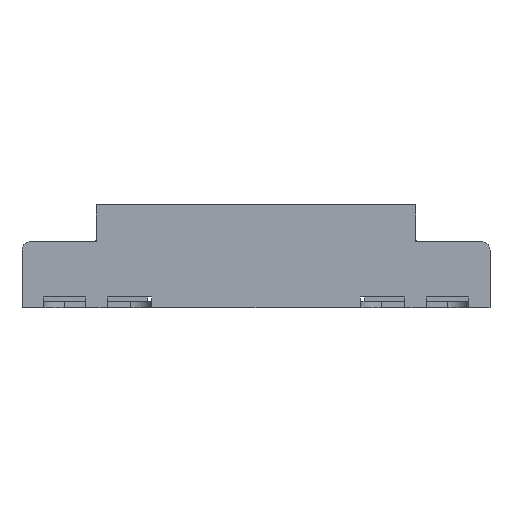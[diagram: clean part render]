
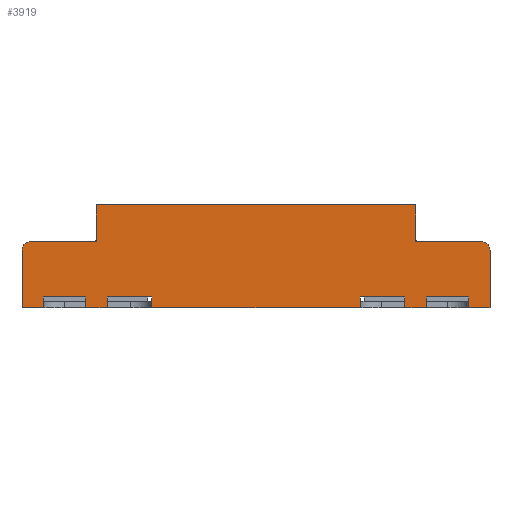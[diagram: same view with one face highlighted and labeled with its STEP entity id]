
A CAD part, front view. The second image highlights one B-rep face of the part: STEP entity #3919.
In plain terms, the highlighted planar face has unit normal (0, -1, 0).
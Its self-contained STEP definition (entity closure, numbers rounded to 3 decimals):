
#1104=CARTESIAN_POINT('Vertex',(10.6,-10.75,2.6)) ;
#1109=CARTESIAN_POINT('Axis2P3D Location',(10.6,-10.75,2.2)) ;
#1113=CARTESIAN_POINT('Vertex',(11.,-10.75,2.2)) ;
#1933=CARTESIAN_POINT('Vertex',(-7.5,-10.75,4.2)) ;
#1938=CARTESIAN_POINT('Line Origine',(-7.5,-10.75,4.275)) ;
#1942=CARTESIAN_POINT('Vertex',(-7.5,-10.75,4.35)) ;
#1964=CARTESIAN_POINT('Line Origine',(7.5,-10.75,-0.5)) ;
#1968=CARTESIAN_POINT('Vertex',(7.,-10.75,-0.5)) ;
#1970=CARTESIAN_POINT('Vertex',(8.,-10.75,-0.5)) ;
#2004=CARTESIAN_POINT('Line Origine',(7.,-10.75,-0.25)) ;
#2008=CARTESIAN_POINT('Vertex',(7.,-10.75,0.)) ;
#2043=CARTESIAN_POINT('Vertex',(-7.,-10.75,-0.5)) ;
#2046=CARTESIAN_POINT('Line Origine',(-7.5,-10.75,-0.5)) ;
#2050=CARTESIAN_POINT('Vertex',(-8.,-10.75,-0.5)) ;
#2070=CARTESIAN_POINT('Line Origine',(-8.,-10.75,-0.25)) ;
#2074=CARTESIAN_POINT('Vertex',(-8.,-10.75,0.)) ;
#2393=CARTESIAN_POINT('Vertex',(7.5,-10.75,4.2)) ;
#2451=CARTESIAN_POINT('Vertex',(-7.,-10.75,0.)) ;
#2454=CARTESIAN_POINT('Line Origine',(-7.,-10.75,-0.25)) ;
#2470=CARTESIAN_POINT('Vertex',(8.,-10.75,0.)) ;
#2473=CARTESIAN_POINT('Line Origine',(8.,-10.75,-0.25)) ;
#2489=CARTESIAN_POINT('Vertex',(7.5,-10.75,4.35)) ;
#2492=CARTESIAN_POINT('Line Origine',(7.5,-10.75,4.275)) ;
#2509=CARTESIAN_POINT('Line Origine',(0.,-10.75,4.35)) ;
#3139=CARTESIAN_POINT('Vertex',(4.9,-10.75,0.)) ;
#3142=CARTESIAN_POINT('Line Origine',(4.9,-10.75,-0.25)) ;
#3146=CARTESIAN_POINT('Vertex',(4.9,-10.75,-0.5)) ;
#3204=CARTESIAN_POINT('Line Origine',(7.5,-10.75,3.475)) ;
#3208=CARTESIAN_POINT('Vertex',(7.5,-10.75,3.8)) ;
#3211=CARTESIAN_POINT('Line Origine',(7.5,-10.75,3.475)) ;
#3215=CARTESIAN_POINT('Vertex',(7.5,-10.75,2.6)) ;
#3272=CARTESIAN_POINT('Vertex',(-7.5,-10.75,2.6)) ;
#3275=CARTESIAN_POINT('Line Origine',(-7.5,-10.75,3.475)) ;
#3279=CARTESIAN_POINT('Vertex',(-7.5,-10.75,3.8)) ;
#3282=CARTESIAN_POINT('Line Origine',(-7.5,-10.75,3.475)) ;
#3305=CARTESIAN_POINT('Vertex',(-11.,-10.75,2.2)) ;
#3310=CARTESIAN_POINT('Axis2P3D Location',(-10.6,-10.75,2.2)) ;
#3314=CARTESIAN_POINT('Vertex',(-10.6,-10.75,2.6)) ;
#3545=CARTESIAN_POINT('Line Origine',(-9.05,-10.75,2.6)) ;
#3550=CARTESIAN_POINT('Line Origine',(9.05,-10.75,2.6)) ;
#3694=CARTESIAN_POINT('Vertex',(10.,-10.75,0.)) ;
#3697=CARTESIAN_POINT('Line Origine',(9.,-10.75,0.)) ;
#3702=CARTESIAN_POINT('Line Origine',(5.95,-10.75,0.)) ;
#3783=CARTESIAN_POINT('Line Origine',(11.,-10.75,0.85)) ;
#3787=CARTESIAN_POINT('Vertex',(11.,-10.75,-0.5)) ;
#3825=CARTESIAN_POINT('Axis2P3D Location',(11.,-10.75,0.)) ;
#3830=CARTESIAN_POINT('Line Origine',(-11.,-10.75,0.85)) ;
#3834=CARTESIAN_POINT('Vertex',(-11.,-10.75,-0.5)) ;
#3837=CARTESIAN_POINT('Line Origine',(-10.5,-10.75,-0.5)) ;
#3841=CARTESIAN_POINT('Vertex',(-10.,-10.75,-0.5)) ;
#3844=CARTESIAN_POINT('Line Origine',(-10.,-10.75,-0.25)) ;
#3848=CARTESIAN_POINT('Vertex',(-10.,-10.75,0.)) ;
#3851=CARTESIAN_POINT('Line Origine',(-9.,-10.75,0.)) ;
#3856=CARTESIAN_POINT('Line Origine',(-5.95,-10.75,0.)) ;
#3860=CARTESIAN_POINT('Vertex',(-4.9,-10.75,0.)) ;
#3863=CARTESIAN_POINT('Line Origine',(-4.9,-10.75,-0.25)) ;
#3867=CARTESIAN_POINT('Vertex',(-4.9,-10.75,-0.5)) ;
#3870=CARTESIAN_POINT('Line Origine',(0.,-10.75,-0.5)) ;
#3875=CARTESIAN_POINT('Line Origine',(10.,-10.75,-0.25)) ;
#3879=CARTESIAN_POINT('Vertex',(10.,-10.75,-0.5)) ;
#3882=CARTESIAN_POINT('Line Origine',(10.5,-10.75,-0.5)) ;
#1110=DIRECTION('Axis2P3D Direction',(-0.,1.,0.)) ;
#1939=DIRECTION('Vector Direction',(0.,0.,-1.)) ;
#1965=DIRECTION('Vector Direction',(1.,0.,0.)) ;
#2005=DIRECTION('Vector Direction',(0.,0.,-1.)) ;
#2047=DIRECTION('Vector Direction',(-1.,0.,0.)) ;
#2071=DIRECTION('Vector Direction',(0.,0.,-1.)) ;
#2455=DIRECTION('Vector Direction',(0.,0.,-1.)) ;
#2474=DIRECTION('Vector Direction',(0.,0.,-1.)) ;
#2493=DIRECTION('Vector Direction',(0.,0.,-1.)) ;
#2510=DIRECTION('Vector Direction',(-1.,0.,0.)) ;
#3143=DIRECTION('Vector Direction',(0.,0.,-1.)) ;
#3205=DIRECTION('Vector Direction',(0.,0.,-1.)) ;
#3212=DIRECTION('Vector Direction',(0.,0.,-1.)) ;
#3276=DIRECTION('Vector Direction',(0.,0.,-1.)) ;
#3283=DIRECTION('Vector Direction',(0.,0.,-1.)) ;
#3311=DIRECTION('Axis2P3D Direction',(0.,-1.,0.)) ;
#3546=DIRECTION('Vector Direction',(-1.,0.,0.)) ;
#3551=DIRECTION('Vector Direction',(1.,0.,0.)) ;
#3698=DIRECTION('Vector Direction',(-1.,0.,0.)) ;
#3703=DIRECTION('Vector Direction',(-1.,0.,0.)) ;
#3784=DIRECTION('Vector Direction',(0.,0.,1.)) ;
#3826=DIRECTION('Axis2P3D Direction',(0.,1.,-0.)) ;
#3827=DIRECTION('Axis2P3D XDirection',(-1.,0.,0.)) ;
#3831=DIRECTION('Vector Direction',(0.,0.,1.)) ;
#3838=DIRECTION('Vector Direction',(1.,0.,0.)) ;
#3845=DIRECTION('Vector Direction',(0.,0.,-1.)) ;
#3852=DIRECTION('Vector Direction',(-1.,0.,0.)) ;
#3857=DIRECTION('Vector Direction',(-1.,0.,0.)) ;
#3864=DIRECTION('Vector Direction',(0.,0.,-1.)) ;
#3871=DIRECTION('Vector Direction',(-1.,0.,0.)) ;
#3876=DIRECTION('Vector Direction',(0.,0.,-1.)) ;
#3883=DIRECTION('Vector Direction',(1.,0.,0.)) ;
#1111=AXIS2_PLACEMENT_3D('Circle Axis2P3D',#1109,#1110,$) ;
#3312=AXIS2_PLACEMENT_3D('Circle Axis2P3D',#3310,#3311,$) ;
#3828=AXIS2_PLACEMENT_3D('Plane Axis2P3D',#3825,#3826,#3827) ;
#3888=ORIENTED_EDGE('',*,*,#3316,.F.) ;
#3889=ORIENTED_EDGE('',*,*,#3836,.F.) ;
#3890=ORIENTED_EDGE('',*,*,#3843,.T.) ;
#3891=ORIENTED_EDGE('',*,*,#3850,.F.) ;
#3892=ORIENTED_EDGE('',*,*,#3855,.T.) ;
#3893=ORIENTED_EDGE('',*,*,#2076,.T.) ;
#3894=ORIENTED_EDGE('',*,*,#2052,.T.) ;
#3895=ORIENTED_EDGE('',*,*,#2458,.F.) ;
#3896=ORIENTED_EDGE('',*,*,#3862,.T.) ;
#3897=ORIENTED_EDGE('',*,*,#3869,.T.) ;
#3898=ORIENTED_EDGE('',*,*,#3874,.T.) ;
#3899=ORIENTED_EDGE('',*,*,#3148,.F.) ;
#3900=ORIENTED_EDGE('',*,*,#3706,.T.) ;
#3901=ORIENTED_EDGE('',*,*,#2010,.T.) ;
#3902=ORIENTED_EDGE('',*,*,#1972,.T.) ;
#3903=ORIENTED_EDGE('',*,*,#2477,.F.) ;
#3904=ORIENTED_EDGE('',*,*,#3701,.T.) ;
#3905=ORIENTED_EDGE('',*,*,#3881,.T.) ;
#3906=ORIENTED_EDGE('',*,*,#3886,.T.) ;
#3907=ORIENTED_EDGE('',*,*,#3789,.T.) ;
#3908=ORIENTED_EDGE('',*,*,#1115,.F.) ;
#3909=ORIENTED_EDGE('',*,*,#3554,.F.) ;
#3910=ORIENTED_EDGE('',*,*,#3217,.T.) ;
#3911=ORIENTED_EDGE('',*,*,#3210,.T.) ;
#3912=ORIENTED_EDGE('',*,*,#2496,.F.) ;
#3913=ORIENTED_EDGE('',*,*,#2513,.F.) ;
#3914=ORIENTED_EDGE('',*,*,#1944,.T.) ;
#3915=ORIENTED_EDGE('',*,*,#3286,.F.) ;
#3916=ORIENTED_EDGE('',*,*,#3281,.F.) ;
#3917=ORIENTED_EDGE('',*,*,#3549,.T.) ;
#1940=VECTOR('Line Direction',#1939,1.) ;
#1966=VECTOR('Line Direction',#1965,1.) ;
#2006=VECTOR('Line Direction',#2005,1.) ;
#2048=VECTOR('Line Direction',#2047,1.) ;
#2072=VECTOR('Line Direction',#2071,1.) ;
#2456=VECTOR('Line Direction',#2455,1.) ;
#2475=VECTOR('Line Direction',#2474,1.) ;
#2494=VECTOR('Line Direction',#2493,1.) ;
#2511=VECTOR('Line Direction',#2510,1.) ;
#3144=VECTOR('Line Direction',#3143,1.) ;
#3206=VECTOR('Line Direction',#3205,1.) ;
#3213=VECTOR('Line Direction',#3212,1.) ;
#3277=VECTOR('Line Direction',#3276,1.) ;
#3284=VECTOR('Line Direction',#3283,1.) ;
#3547=VECTOR('Line Direction',#3546,1.) ;
#3552=VECTOR('Line Direction',#3551,1.) ;
#3699=VECTOR('Line Direction',#3698,1.) ;
#3704=VECTOR('Line Direction',#3703,1.) ;
#3785=VECTOR('Line Direction',#3784,1.) ;
#3832=VECTOR('Line Direction',#3831,1.) ;
#3839=VECTOR('Line Direction',#3838,1.) ;
#3846=VECTOR('Line Direction',#3845,1.) ;
#3853=VECTOR('Line Direction',#3852,1.) ;
#3858=VECTOR('Line Direction',#3857,1.) ;
#3865=VECTOR('Line Direction',#3864,1.) ;
#3872=VECTOR('Line Direction',#3871,1.) ;
#3877=VECTOR('Line Direction',#3876,1.) ;
#3884=VECTOR('Line Direction',#3883,1.) ;
#3919=ADVANCED_FACE('Hauptk\X2\00F6\X0\rper',(#3918),#3829,.F.) ;
#1112=CIRCLE('generated circle',#1111,0.4) ;
#3313=CIRCLE('generated circle',#3312,0.4) ;
#1115=EDGE_CURVE('',#1105,#1114,#1112,.T.) ;
#1944=EDGE_CURVE('',#1943,#1934,#1941,.T.) ;
#1972=EDGE_CURVE('',#1969,#1971,#1967,.T.) ;
#2010=EDGE_CURVE('',#2009,#1969,#2007,.T.) ;
#2052=EDGE_CURVE('',#2051,#2044,#2049,.F.) ;
#2076=EDGE_CURVE('',#2075,#2051,#2073,.T.) ;
#2458=EDGE_CURVE('',#2452,#2044,#2457,.T.) ;
#2477=EDGE_CURVE('',#2471,#1971,#2476,.T.) ;
#2496=EDGE_CURVE('',#2490,#2394,#2495,.T.) ;
#2513=EDGE_CURVE('',#1943,#2490,#2512,.F.) ;
#3148=EDGE_CURVE('',#3140,#3147,#3145,.T.) ;
#3210=EDGE_CURVE('',#3209,#2394,#3207,.F.) ;
#3217=EDGE_CURVE('',#3216,#3209,#3214,.F.) ;
#3281=EDGE_CURVE('',#3273,#3280,#3278,.F.) ;
#3286=EDGE_CURVE('',#3280,#1934,#3285,.F.) ;
#3316=EDGE_CURVE('',#3306,#3315,#3313,.F.) ;
#3549=EDGE_CURVE('',#3273,#3315,#3548,.T.) ;
#3554=EDGE_CURVE('',#3216,#1105,#3553,.T.) ;
#3701=EDGE_CURVE('',#2471,#3695,#3700,.F.) ;
#3706=EDGE_CURVE('',#3140,#2009,#3705,.F.) ;
#3789=EDGE_CURVE('',#3788,#1114,#3786,.T.) ;
#3836=EDGE_CURVE('',#3835,#3306,#3833,.T.) ;
#3843=EDGE_CURVE('',#3835,#3842,#3840,.T.) ;
#3850=EDGE_CURVE('',#3849,#3842,#3847,.T.) ;
#3855=EDGE_CURVE('',#3849,#2075,#3854,.F.) ;
#3862=EDGE_CURVE('',#2452,#3861,#3859,.F.) ;
#3869=EDGE_CURVE('',#3861,#3868,#3866,.T.) ;
#3874=EDGE_CURVE('',#3868,#3147,#3873,.F.) ;
#3881=EDGE_CURVE('',#3695,#3880,#3878,.T.) ;
#3886=EDGE_CURVE('',#3880,#3788,#3885,.T.) ;
#3887=EDGE_LOOP('',(#3888,#3889,#3890,#3891,#3892,#3893,#3894,#3895,#3896,#3897,#3898,#3899,#3900,#3901,#3902,#3903,#3904,#3905,#3906,#3907,#3908,#3909,#3910,#3911,#3912,#3913,#3914,#3915,#3916,#3917)) ;
#3918=FACE_OUTER_BOUND('',#3887,.T.) ;
#1941=LINE('Line',#1938,#1940) ;
#1967=LINE('Line',#1964,#1966) ;
#2007=LINE('Line',#2004,#2006) ;
#2049=LINE('Line',#2046,#2048) ;
#2073=LINE('Line',#2070,#2072) ;
#2457=LINE('Line',#2454,#2456) ;
#2476=LINE('Line',#2473,#2475) ;
#2495=LINE('Line',#2492,#2494) ;
#2512=LINE('Line',#2509,#2511) ;
#3145=LINE('Line',#3142,#3144) ;
#3207=LINE('Line',#3204,#3206) ;
#3214=LINE('Line',#3211,#3213) ;
#3278=LINE('Line',#3275,#3277) ;
#3285=LINE('Line',#3282,#3284) ;
#3548=LINE('Line',#3545,#3547) ;
#3553=LINE('Line',#3550,#3552) ;
#3700=LINE('Line',#3697,#3699) ;
#3705=LINE('Line',#3702,#3704) ;
#3786=LINE('Line',#3783,#3785) ;
#3833=LINE('Line',#3830,#3832) ;
#3840=LINE('Line',#3837,#3839) ;
#3847=LINE('Line',#3844,#3846) ;
#3854=LINE('Line',#3851,#3853) ;
#3859=LINE('Line',#3856,#3858) ;
#3866=LINE('Line',#3863,#3865) ;
#3873=LINE('Line',#3870,#3872) ;
#3878=LINE('Line',#3875,#3877) ;
#3885=LINE('Line',#3882,#3884) ;
#3829=PLANE('',#3828) ;
#1105=VERTEX_POINT('',#1104) ;
#1114=VERTEX_POINT('',#1113) ;
#1934=VERTEX_POINT('',#1933) ;
#1943=VERTEX_POINT('',#1942) ;
#1969=VERTEX_POINT('',#1968) ;
#1971=VERTEX_POINT('',#1970) ;
#2009=VERTEX_POINT('',#2008) ;
#2044=VERTEX_POINT('',#2043) ;
#2051=VERTEX_POINT('',#2050) ;
#2075=VERTEX_POINT('',#2074) ;
#2394=VERTEX_POINT('',#2393) ;
#2452=VERTEX_POINT('',#2451) ;
#2471=VERTEX_POINT('',#2470) ;
#2490=VERTEX_POINT('',#2489) ;
#3140=VERTEX_POINT('',#3139) ;
#3147=VERTEX_POINT('',#3146) ;
#3209=VERTEX_POINT('',#3208) ;
#3216=VERTEX_POINT('',#3215) ;
#3273=VERTEX_POINT('',#3272) ;
#3280=VERTEX_POINT('',#3279) ;
#3306=VERTEX_POINT('',#3305) ;
#3315=VERTEX_POINT('',#3314) ;
#3695=VERTEX_POINT('',#3694) ;
#3788=VERTEX_POINT('',#3787) ;
#3835=VERTEX_POINT('',#3834) ;
#3842=VERTEX_POINT('',#3841) ;
#3849=VERTEX_POINT('',#3848) ;
#3861=VERTEX_POINT('',#3860) ;
#3868=VERTEX_POINT('',#3867) ;
#3880=VERTEX_POINT('',#3879) ;
